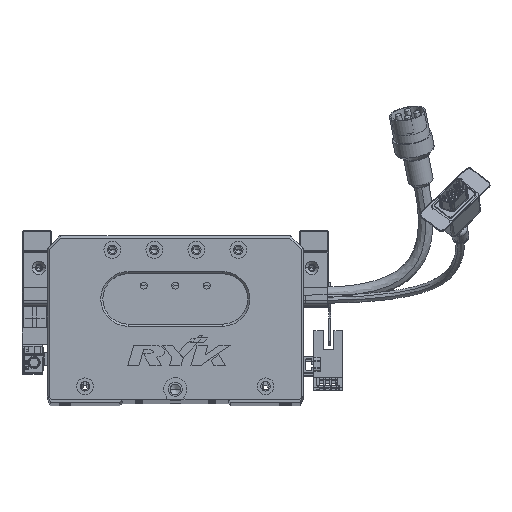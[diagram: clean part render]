
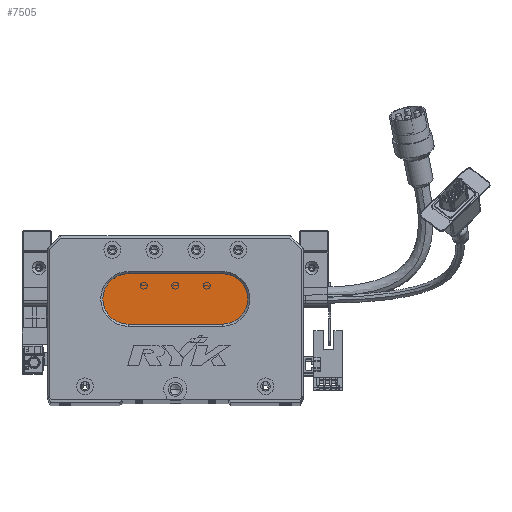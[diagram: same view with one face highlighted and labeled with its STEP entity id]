
A CAD part, top view. The second image highlights one B-rep face of the part: STEP entity #7505.
In plain terms, the highlighted planar face has unit normal (0, 0, 1) as drawn and (0, 0, -1) by its records, which use the part's own axes.
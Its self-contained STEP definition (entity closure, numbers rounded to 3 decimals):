
#1428 = VECTOR ( 'NONE', #3432, 1000. ) ;
#1979 = EDGE_CURVE ( 'NONE', #61378, #75683, #36275, .T. ) ;
#2215 = CARTESIAN_POINT ( 'NONE',  ( 38.5, 36., 13. ) ) ;
#3432 = DIRECTION ( 'NONE',  ( 1., 0., 0. ) ) ;
#3487 = AXIS2_PLACEMENT_3D ( 'NONE', #30541, #56488, #11608 ) ;
#5916 = DIRECTION ( 'NONE',  ( 0., 0., -1. ) ) ;
#6163 = VERTEX_POINT ( 'NONE', #46046 ) ;
#6312 = EDGE_CURVE ( 'NONE', #6163, #61378, #10379, .T. ) ;
#7505 = ADVANCED_FACE ( 'NONE', ( #45710 ), #81965, .T. ) ;
#7714 = CARTESIAN_POINT ( 'NONE',  ( 83.5, 36., 13. ) ) ;
#10379 = LINE ( 'NONE', #29105, #1428 ) ;
#10427 = DIRECTION ( 'NONE',  ( 0., 0., -1. ) ) ;
#11608 = DIRECTION ( 'NONE',  ( -1., 0., 0. ) ) ;
#14930 = EDGE_LOOP ( 'NONE', ( #49634, #49792, #42620, #66219, #43263 ) ) ;
#15794 = VERTEX_POINT ( 'NONE', #22512 ) ;
#16922 = EDGE_CURVE ( 'NONE', #15794, #6163, #43588, .T. ) ;
#18876 = DIRECTION ( 'NONE',  ( -1., 0., 0. ) ) ;
#22512 = CARTESIAN_POINT ( 'NONE',  ( 26.5, 48., 13. ) ) ;
#24807 = CARTESIAN_POINT ( 'NONE',  ( 38.5, 48., 13. ) ) ;
#26844 = VERTEX_POINT ( 'NONE', #2215 ) ;
#29105 = CARTESIAN_POINT ( 'NONE',  ( 83.5, 60., 13. ) ) ;
#30541 = CARTESIAN_POINT ( 'NONE',  ( 83.5, 48., 13. ) ) ;
#32870 = AXIS2_PLACEMENT_3D ( 'NONE', #63816, #10427, #71311 ) ;
#36275 = CIRCLE ( 'NONE', #32870, 12. ) ;
#36434 = AXIS2_PLACEMENT_3D ( 'NONE', #55637, #74046, #68346 ) ;
#42620 = ORIENTED_EDGE ( 'NONE', *, *, #52745, .T. ) ;
#43263 = ORIENTED_EDGE ( 'NONE', *, *, #6312, .T. ) ;
#43588 = CIRCLE ( 'NONE', #59111, 12. ) ;
#45710 = FACE_OUTER_BOUND ( 'NONE', #14930, .T. ) ;
#46046 = CARTESIAN_POINT ( 'NONE',  ( 38.5, 60., 13. ) ) ;
#49634 = ORIENTED_EDGE ( 'NONE', *, *, #1979, .T. ) ;
#49792 = ORIENTED_EDGE ( 'NONE', *, *, #61864, .T. ) ;
#52745 = EDGE_CURVE ( 'NONE', #26844, #15794, #62730, .T. ) ;
#55637 = CARTESIAN_POINT ( 'NONE',  ( 38.5, 48., 13. ) ) ;
#56488 = DIRECTION ( 'NONE',  ( 0., 0., -1. ) ) ;
#59111 = AXIS2_PLACEMENT_3D ( 'NONE', #24807, #5916, #18876 ) ;
#61378 = VERTEX_POINT ( 'NONE', #79200 ) ;
#61864 = EDGE_CURVE ( 'NONE', #75683, #26844, #70225, .T. ) ;
#62730 = CIRCLE ( 'NONE', #36434, 12. ) ;
#63816 = CARTESIAN_POINT ( 'NONE',  ( 83.5, 48., 13. ) ) ;
#65850 = DIRECTION ( 'NONE',  ( -1., 0., 0. ) ) ;
#66219 = ORIENTED_EDGE ( 'NONE', *, *, #16922, .T. ) ;
#68346 = DIRECTION ( 'NONE',  ( -1., 0., 0. ) ) ;
#69485 = CARTESIAN_POINT ( 'NONE',  ( 83.5, 36., 13. ) ) ;
#70225 = LINE ( 'NONE', #7714, #72275 ) ;
#71311 = DIRECTION ( 'NONE',  ( -1., 0., 0. ) ) ;
#72275 = VECTOR ( 'NONE', #65850, 1000. ) ;
#74046 = DIRECTION ( 'NONE',  ( 0., 0., -1. ) ) ;
#75683 = VERTEX_POINT ( 'NONE', #69485 ) ;
#79200 = CARTESIAN_POINT ( 'NONE',  ( 83.5, 60., 13. ) ) ;
#81965 = PLANE ( 'NONE',  #3487 ) ;
